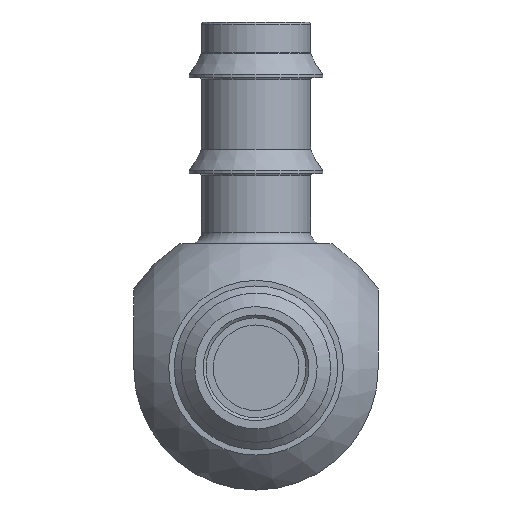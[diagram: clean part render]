
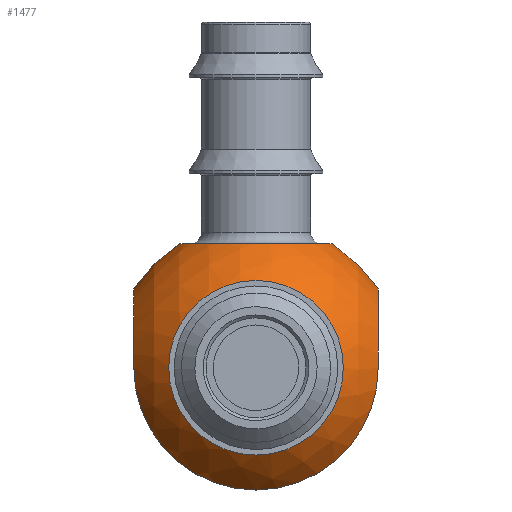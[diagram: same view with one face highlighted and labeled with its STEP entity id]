
A CAD part, front view. The second image highlights one B-rep face of the part: STEP entity #1477.
In plain terms, the highlighted spherical face has radius 12.7 mm.
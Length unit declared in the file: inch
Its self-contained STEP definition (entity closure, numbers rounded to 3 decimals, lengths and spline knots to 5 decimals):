
#37=SPHERICAL_SURFACE('',#1705,0.5);
#69=FACE_BOUND('',#376,.T.);
#70=FACE_BOUND('',#377,.T.);
#71=FACE_BOUND('',#378,.T.);
#282=FACE_OUTER_BOUND('',#375,.T.);
#375=EDGE_LOOP('',(#1240,#1241,#1242,#1243));
#376=EDGE_LOOP('',(#1244));
#377=EDGE_LOOP('',(#1245));
#378=EDGE_LOOP('',(#1246));
#464=CIRCLE('',#1603,0.3);
#527=CIRCLE('',#1690,0.26177);
#528=CIRCLE('',#1694,0.27129);
#529=CIRCLE('',#1696,0.27129);
#530=CIRCLE('',#1698,0.42);
#531=CIRCLE('',#1699,0.42);
#532=CIRCLE('',#1701,0.3);
#620=VERTEX_POINT('',#2490);
#672=VERTEX_POINT('',#2638);
#673=VERTEX_POINT('',#2645);
#674=VERTEX_POINT('',#2646);
#675=VERTEX_POINT('',#2650);
#676=VERTEX_POINT('',#2651);
#677=VERTEX_POINT('',#2658);
#795=EDGE_CURVE('',#620,#620,#464,.T.);
#867=EDGE_CURVE('',#672,#672,#527,.T.);
#870=EDGE_CURVE('',#673,#674,#528,.T.);
#872=EDGE_CURVE('',#675,#676,#529,.T.);
#874=EDGE_CURVE('',#676,#673,#530,.T.);
#875=EDGE_CURVE('',#674,#675,#531,.T.);
#876=EDGE_CURVE('',#677,#677,#532,.T.);
#1240=ORIENTED_EDGE('',*,*,#872,.T.);
#1241=ORIENTED_EDGE('',*,*,#874,.T.);
#1242=ORIENTED_EDGE('',*,*,#870,.T.);
#1243=ORIENTED_EDGE('',*,*,#875,.T.);
#1244=ORIENTED_EDGE('',*,*,#867,.T.);
#1245=ORIENTED_EDGE('',*,*,#795,.T.);
#1246=ORIENTED_EDGE('',*,*,#876,.F.);
#1477=ADVANCED_FACE('',(#282,#69,#70,#71),#37,.T.);
#1603=AXIS2_PLACEMENT_3D('',#2491,#1924,#1925);
#1690=AXIS2_PLACEMENT_3D('',#2639,#2107,#2108);
#1694=AXIS2_PLACEMENT_3D('',#2647,#2117,#2118);
#1696=AXIS2_PLACEMENT_3D('',#2652,#2122,#2123);
#1698=AXIS2_PLACEMENT_3D('',#2655,#2127,#2128);
#1699=AXIS2_PLACEMENT_3D('',#2656,#2129,#2130);
#1701=AXIS2_PLACEMENT_3D('',#2659,#2133,#2134);
#1705=AXIS2_PLACEMENT_3D('',#2666,#2142,#2143);
#1924=DIRECTION('center_axis',(0.,-1.,0.));
#1925=DIRECTION('ref_axis',(1.,0.,0.));
#2107=DIRECTION('center_axis',(0.,0.,-1.));
#2108=DIRECTION('ref_axis',(0.,-1.,0.));
#2117=DIRECTION('center_axis',(1.,0.,0.));
#2118=DIRECTION('ref_axis',(0.,0.,1.));
#2122=DIRECTION('center_axis',(-1.,0.,0.));
#2123=DIRECTION('ref_axis',(0.,0.,-1.));
#2127=DIRECTION('center_axis',(0.,1.,0.));
#2128=DIRECTION('ref_axis',(1.,0.,0.));
#2129=DIRECTION('center_axis',(0.,-1.,0.));
#2130=DIRECTION('ref_axis',(1.,0.,0.));
#2133=DIRECTION('center_axis',(0.,-1.,0.));
#2134=DIRECTION('ref_axis',(1.,0.,0.));
#2142=DIRECTION('center_axis',(1.,0.,0.));
#2143=DIRECTION('ref_axis',(0.,0.,1.));
#2490=CARTESIAN_POINT('',(0.,0.4,-0.3));
#2491=CARTESIAN_POINT('Origin',(0.,0.4,0.));
#2638=CARTESIAN_POINT('',(0.,0.26177,0.426));
#2639=CARTESIAN_POINT('Origin',(0.,0.,0.426));
#2645=CARTESIAN_POINT('',(-0.42,0.27129,0.));
#2646=CARTESIAN_POINT('',(-0.42,-0.27129,0.));
#2647=CARTESIAN_POINT('Origin',(-0.42,0.,0.));
#2650=CARTESIAN_POINT('',(0.42,-0.27129,0.));
#2651=CARTESIAN_POINT('',(0.42,0.27129,0.));
#2652=CARTESIAN_POINT('Origin',(0.42,0.,0.));
#2655=CARTESIAN_POINT('Origin',(0.,0.27129,0.));
#2656=CARTESIAN_POINT('Origin',(0.,-0.27129,0.));
#2658=CARTESIAN_POINT('',(0.,-0.4,-0.3));
#2659=CARTESIAN_POINT('Origin',(0.,-0.4,0.));
#2666=CARTESIAN_POINT('Origin',(0.,0.,0.));
